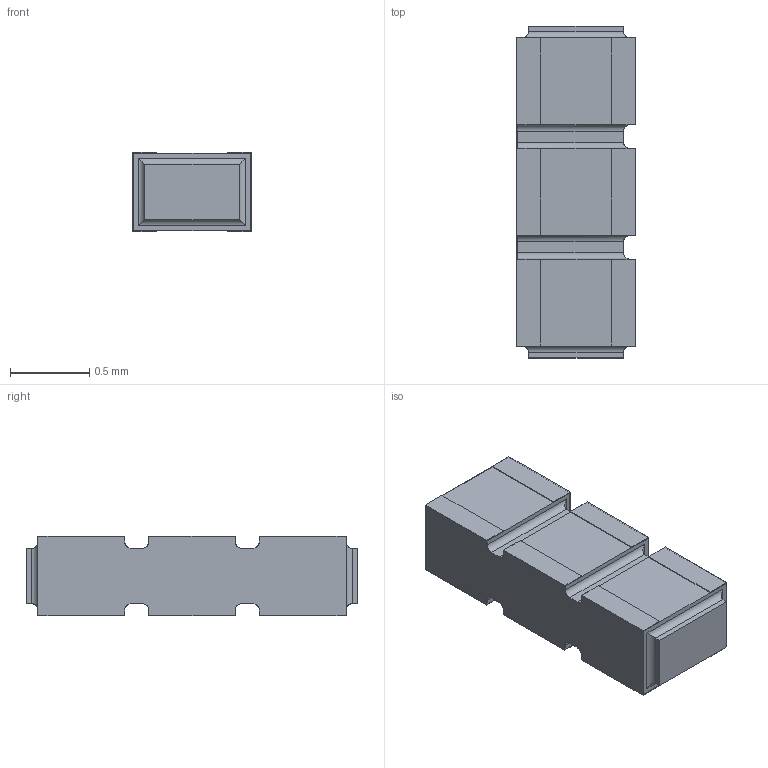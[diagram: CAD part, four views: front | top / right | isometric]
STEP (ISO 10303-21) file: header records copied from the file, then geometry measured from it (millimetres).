
FILE_DESCRIPTION(/* description */ (''),/* implementation_level */ '2;1');
FILE_NAME(/* name */ 'S:\DOCUMENT\AUTOCAD\3D_Modèles\10_3D-pour-VISHAY-COM\PRA\PRA073\PRA073-C2_à_C8\10_IGES\PRA073C3_B-or-N-or-G.stp',/* time_stamp */ '2017-12-21T10:43:35+01:00',/* author */ ('dparmentier'),/* organization */ ('unknown'),/* preprocessor_version */ 'ST-DEVELOPER v17',/* originating_system */ 'Autodesk Inventor 2018',/* authorisation */ '');
FILE_SCHEMA (('AUTOMOTIVE_DESIGN { 1 0 10303 214 3 1 1 }'));
Length unit declared in the file: millimetre
Products named in the file (1): PRA073C3_B-or-N-or-G
Bounding box: 0.75 x 2.1 x 0.5 mm (x, y, z)
Volume: 0.7 mm3; surface area: 11.5 mm2
Topology: 5 solids, 5 shells, 124 faces, 320 edges, 208 vertices
Faces by surface type: plane 96, cylinder 28
Entity records: 3765 total; most frequent: CARTESIAN_POINT 653, ORIENTED_EDGE 640, DIRECTION 610, EDGE_CURVE 320, LINE 280, VECTOR 280, VERTEX_POINT 208, AXIS2_PLACEMENT_3D 165
